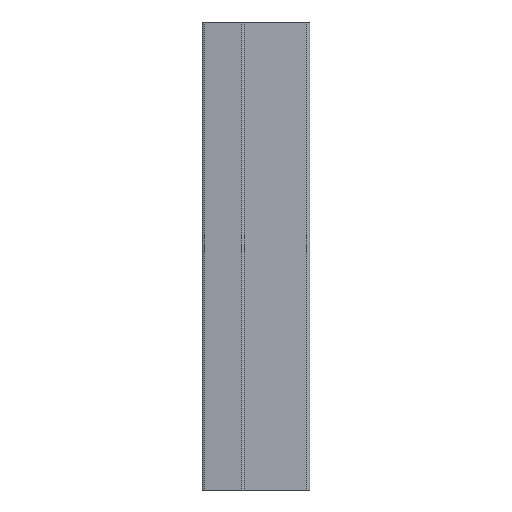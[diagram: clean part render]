
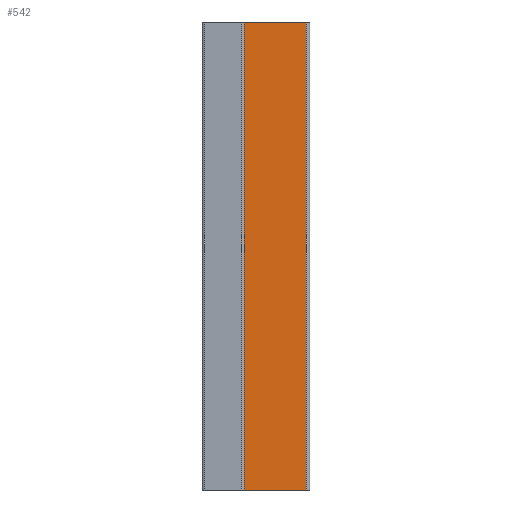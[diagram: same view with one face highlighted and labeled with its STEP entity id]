
A CAD part, left-side view. The second image highlights one B-rep face of the part: STEP entity #542.
In plain terms, the highlighted planar face has unit normal (-1, 0, 0).
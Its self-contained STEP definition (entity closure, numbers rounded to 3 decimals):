
#28=PLANE('',#614);
#56=FACE_OUTER_BOUND('',#84,.T.);
#84=EDGE_LOOP('',(#471,#472,#473,#474));
#88=LINE('',#786,#142);
#92=LINE('',#795,#146);
#138=LINE('',#931,#192);
#139=LINE('',#932,#193);
#142=VECTOR('',#626,10.);
#146=VECTOR('',#634,10.);
#192=VECTOR('',#770,10.);
#193=VECTOR('',#771,10.);
#219=VERTEX_POINT('',#779);
#222=VERTEX_POINT('',#784);
#225=VERTEX_POINT('',#794);
#270=VERTEX_POINT('',#930);
#274=EDGE_CURVE('',#222,#219,#88,.T.);
#278=EDGE_CURVE('',#219,#225,#92,.T.);
#346=EDGE_CURVE('',#222,#270,#138,.T.);
#347=EDGE_CURVE('',#225,#270,#139,.T.);
#471=ORIENTED_EDGE('',*,*,#274,.F.);
#472=ORIENTED_EDGE('',*,*,#346,.T.);
#473=ORIENTED_EDGE('',*,*,#347,.F.);
#474=ORIENTED_EDGE('',*,*,#278,.F.);
#542=ADVANCED_FACE('',(#56),#28,.T.);
#614=AXIS2_PLACEMENT_3D('',#929,#768,#769);
#626=DIRECTION('',(0.,0.,-1.));
#634=DIRECTION('',(0.,1.,0.));
#768=DIRECTION('center_axis',(-1.,0.,0.));
#769=DIRECTION('ref_axis',(0.,0.,1.));
#770=DIRECTION('',(0.,1.,0.));
#771=DIRECTION('',(0.,0.,1.));
#779=CARTESIAN_POINT('',(-10.646,-13.25,0.));
#784=CARTESIAN_POINT('',(-10.646,-13.25,100.));
#786=CARTESIAN_POINT('',(-10.646,-13.25,0.));
#794=CARTESIAN_POINT('',(-10.646,0.,0.));
#795=CARTESIAN_POINT('',(-10.646,-14.,0.));
#929=CARTESIAN_POINT('Origin',(-10.646,-14.,0.));
#930=CARTESIAN_POINT('',(-10.646,0.,100.));
#931=CARTESIAN_POINT('',(-10.646,-14.,100.));
#932=CARTESIAN_POINT('',(-10.646,0.,0.));
